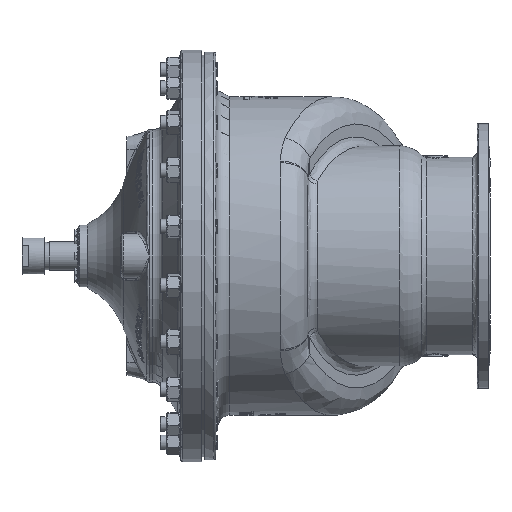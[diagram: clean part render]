
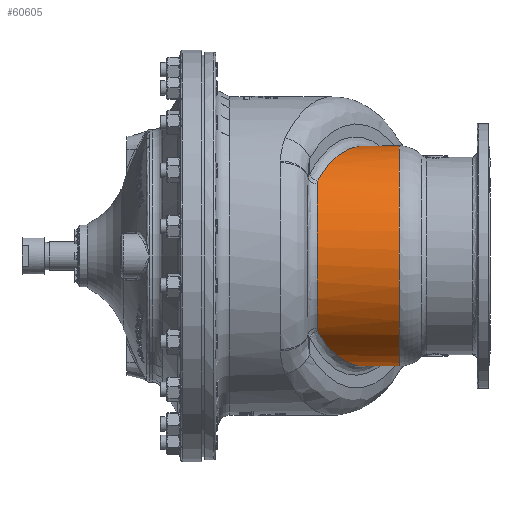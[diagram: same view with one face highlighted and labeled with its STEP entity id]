
A CAD part, left-side view. The second image highlights one B-rep face of the part: STEP entity #60605.
In plain terms, the highlighted cylindrical face has radius 241 mm (diameter 482 mm), a partial arc.
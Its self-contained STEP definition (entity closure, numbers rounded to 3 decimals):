
#414=ELLIPSE('',#65086,277.467,241.);
#415=ELLIPSE('',#65087,277.467,241.);
#434=ELLIPSE('',#67879,277.467,241.);
#435=ELLIPSE('',#67880,277.467,241.);
#952=CYLINDRICAL_SURFACE('',#67895,241.);
#10512=FACE_OUTER_BOUND('',#14631,.T.);
#14631=EDGE_LOOP('',(#55441,#55442,#55443,#55444,#55445,#55446,#55447,#55448));
#18082=B_SPLINE_CURVE_WITH_KNOTS('',3,(#176989,#176990,#176991,#176992),
 .UNSPECIFIED.,.F.,.F.,(4,4),(-0.852,0.),
 .UNSPECIFIED.);
#18089=B_SPLINE_CURVE_WITH_KNOTS('',3,(#177177,#177178,#177179,#177180),
 .UNSPECIFIED.,.F.,.F.,(4,4),(-0.852,0.),
 .UNSPECIFIED.);
#22339=CIRCLE('',#67867,241.);
#22349=CIRCLE('',#67886,241.);
#25718=VERTEX_POINT('',#104283);
#25719=VERTEX_POINT('',#104285);
#25720=VERTEX_POINT('',#104287);
#28431=VERTEX_POINT('',#176949);
#28432=VERTEX_POINT('',#176951);
#28434=VERTEX_POINT('',#176987);
#28443=VERTEX_POINT('',#177255);
#28444=VERTEX_POINT('',#177257);
#33379=EDGE_CURVE('',#25718,#25719,#414,.T.);
#33380=EDGE_CURVE('',#25719,#25720,#415,.T.);
#37426=EDGE_CURVE('',#28431,#28432,#22339,.T.);
#37430=EDGE_CURVE('',#28434,#28431,#18082,.T.);
#37445=EDGE_CURVE('',#28432,#25718,#18089,.T.);
#37448=EDGE_CURVE('',#28443,#28444,#434,.T.);
#37449=EDGE_CURVE('',#28444,#28434,#435,.T.);
#37454=EDGE_CURVE('',#28443,#25720,#22349,.T.);
#55441=ORIENTED_EDGE('',*,*,#37448,.F.);
#55442=ORIENTED_EDGE('',*,*,#37454,.T.);
#55443=ORIENTED_EDGE('',*,*,#33380,.F.);
#55444=ORIENTED_EDGE('',*,*,#33379,.F.);
#55445=ORIENTED_EDGE('',*,*,#37445,.F.);
#55446=ORIENTED_EDGE('',*,*,#37426,.F.);
#55447=ORIENTED_EDGE('',*,*,#37430,.F.);
#55448=ORIENTED_EDGE('',*,*,#37449,.F.);
#60605=ADVANCED_FACE('',(#10512),#952,.T.);
#65086=AXIS2_PLACEMENT_3D('',#104286,#77461,#77462);
#65087=AXIS2_PLACEMENT_3D('',#104288,#77463,#77464);
#67867=AXIS2_PLACEMENT_3D('',#176952,#83721,#83722);
#67879=AXIS2_PLACEMENT_3D('',#177258,#83748,#83749);
#67880=AXIS2_PLACEMENT_3D('',#177259,#83750,#83751);
#67886=AXIS2_PLACEMENT_3D('',#177306,#83763,#83764);
#67895=AXIS2_PLACEMENT_3D('',#177796,#83781,#83782);
#77461=DIRECTION('center_axis',(0.496,0.869,0.));
#77462=DIRECTION('ref_axis',(-0.869,0.496,0.));
#77463=DIRECTION('center_axis',(0.496,0.869,0.));
#77464=DIRECTION('ref_axis',(-0.869,0.496,0.));
#83721=DIRECTION('center_axis',(0.,1.,0.));
#83722=DIRECTION('ref_axis',(-1.,0.,0.));
#83748=DIRECTION('center_axis',(0.496,0.869,0.));
#83749=DIRECTION('ref_axis',(-0.869,0.496,0.));
#83750=DIRECTION('center_axis',(0.496,0.869,0.));
#83751=DIRECTION('ref_axis',(-0.869,0.496,0.));
#83763=DIRECTION('center_axis',(0.,1.,0.));
#83764=DIRECTION('ref_axis',(-1.,0.,0.));
#83781=DIRECTION('center_axis',(0.,1.,0.));
#83782=DIRECTION('ref_axis',(-1.,0.,0.));
#104283=CARTESIAN_POINT('',(-216.62,-21.383,163.971));
#104285=CARTESIAN_POINT('',(-207.214,-26.75,173.553));
#104286=CARTESIAN_POINT('Origin',(-40.,-122.154,0.));
#104287=CARTESIAN_POINT('',(96.441,-200.,198.658));
#104288=CARTESIAN_POINT('Origin',(-40.,-122.154,0.));
#176949=CARTESIAN_POINT('',(-221.785,-20.,-158.226));
#176951=CARTESIAN_POINT('',(-221.785,-20.,158.226));
#176952=CARTESIAN_POINT('Origin',(-40.,-20.,0.));
#176987=CARTESIAN_POINT('',(-216.62,-21.383,-163.971));
#176989=CARTESIAN_POINT('Ctrl Pts',(-216.62,-21.383,
-163.971));
#176990=CARTESIAN_POINT('Ctrl Pts',(-218.3,-20.425,
-162.161));
#176991=CARTESIAN_POINT('Ctrl Pts',(-220.063,-20.,-160.204));
#176992=CARTESIAN_POINT('Ctrl Pts',(-221.785,-20.,-158.226));
#177177=CARTESIAN_POINT('Ctrl Pts',(-221.785,-20.,158.226));
#177178=CARTESIAN_POINT('Ctrl Pts',(-220.063,-20.,160.204));
#177179=CARTESIAN_POINT('Ctrl Pts',(-218.3,-20.425,
162.161));
#177180=CARTESIAN_POINT('Ctrl Pts',(-216.62,-21.383,
163.971));
#177255=CARTESIAN_POINT('',(96.441,-200.,-198.658));
#177257=CARTESIAN_POINT('',(-207.214,-26.75,-173.553));
#177258=CARTESIAN_POINT('Origin',(-40.,-122.154,0.));
#177259=CARTESIAN_POINT('Origin',(-40.,-122.154,0.));
#177306=CARTESIAN_POINT('Origin',(-40.,-200.,0.));
#177796=CARTESIAN_POINT('Origin',(-40.,20.,0.));
